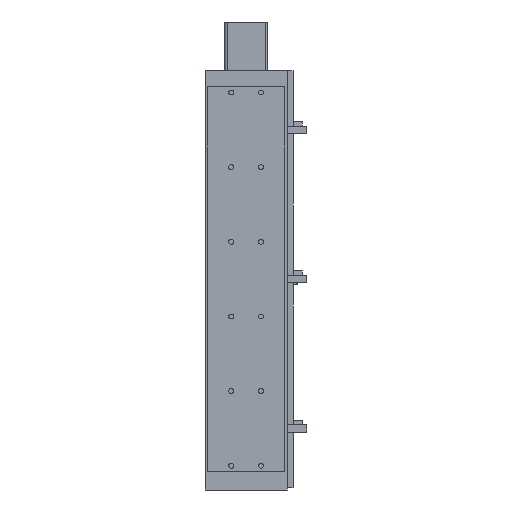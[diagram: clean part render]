
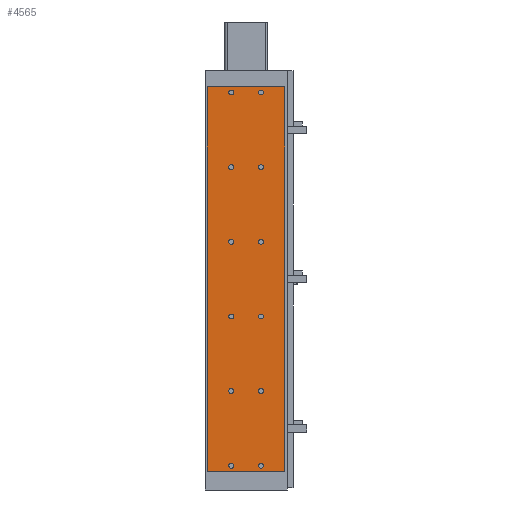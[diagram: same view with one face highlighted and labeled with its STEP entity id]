
A CAD part, front view. The second image highlights one B-rep face of the part: STEP entity #4565.
In plain terms, the highlighted planar face has unit normal (0, -1, 0).
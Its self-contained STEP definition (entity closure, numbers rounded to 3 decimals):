
#136=CARTESIAN_POINT('',(16.75,0.,532.5));
#137=VERTEX_POINT('',#136);
#138=CARTESIAN_POINT('',(20.,0.0,532.5));
#139=DIRECTION('',(0.0,1.0,0.0));
#140=DIRECTION('',(1.0,0.0,0.0));
#141=AXIS2_PLACEMENT_3D('',#138,#139,#140);
#142=CIRCLE('',#141,3.25);
#143=EDGE_CURVE('',#137,#137,#142,.T.);
#182=CARTESIAN_POINT('',(-23.25,0.,532.5));
#183=VERTEX_POINT('',#182);
#184=CARTESIAN_POINT('',(-20.,0.0,532.5));
#185=DIRECTION('',(0.0,1.0,0.0));
#186=DIRECTION('',(1.0,0.0,0.0));
#187=AXIS2_PLACEMENT_3D('',#184,#185,#186);
#188=CIRCLE('',#187,3.25);
#189=EDGE_CURVE('',#183,#183,#188,.T.);
#290=CARTESIAN_POINT('',(16.75,0.,432.5));
#291=VERTEX_POINT('',#290);
#292=CARTESIAN_POINT('',(20.,0.0,432.5));
#293=DIRECTION('',(0.0,1.0,0.0));
#294=DIRECTION('',(1.0,0.0,0.0));
#295=AXIS2_PLACEMENT_3D('',#292,#293,#294);
#296=CIRCLE('',#295,3.25);
#297=EDGE_CURVE('',#291,#291,#296,.T.);
#336=CARTESIAN_POINT('',(-23.25,0.,432.5));
#337=VERTEX_POINT('',#336);
#338=CARTESIAN_POINT('',(-20.,0.0,432.5));
#339=DIRECTION('',(0.0,1.0,0.0));
#340=DIRECTION('',(1.0,0.0,0.0));
#341=AXIS2_PLACEMENT_3D('',#338,#339,#340);
#342=CIRCLE('',#341,3.25);
#343=EDGE_CURVE('',#337,#337,#342,.T.);
#444=CARTESIAN_POINT('',(16.75,0.,132.5));
#445=VERTEX_POINT('',#444);
#446=CARTESIAN_POINT('',(20.,0.0,132.5));
#447=DIRECTION('',(0.0,1.0,0.0));
#448=DIRECTION('',(1.0,0.0,0.0));
#449=AXIS2_PLACEMENT_3D('',#446,#447,#448);
#450=CIRCLE('',#449,3.25);
#451=EDGE_CURVE('',#445,#445,#450,.T.);
#490=CARTESIAN_POINT('',(-23.25,0.,132.5));
#491=VERTEX_POINT('',#490);
#492=CARTESIAN_POINT('',(-20.,0.0,132.5));
#493=DIRECTION('',(0.0,1.0,0.0));
#494=DIRECTION('',(1.0,0.0,0.0));
#495=AXIS2_PLACEMENT_3D('',#492,#493,#494);
#496=CIRCLE('',#495,3.25);
#497=EDGE_CURVE('',#491,#491,#496,.T.);
#598=CARTESIAN_POINT('',(16.75,0.,32.5));
#599=VERTEX_POINT('',#598);
#600=CARTESIAN_POINT('',(20.,0.0,32.5));
#601=DIRECTION('',(0.0,1.0,0.0));
#602=DIRECTION('',(1.0,0.0,0.0));
#603=AXIS2_PLACEMENT_3D('',#600,#601,#602);
#604=CIRCLE('',#603,3.25);
#605=EDGE_CURVE('',#599,#599,#604,.T.);
#644=CARTESIAN_POINT('',(-23.25,0.,32.5));
#645=VERTEX_POINT('',#644);
#646=CARTESIAN_POINT('',(-20.,0.0,32.5));
#647=DIRECTION('',(0.0,1.0,0.0));
#648=DIRECTION('',(1.0,0.0,0.0));
#649=AXIS2_PLACEMENT_3D('',#646,#647,#648);
#650=CIRCLE('',#649,3.25);
#651=EDGE_CURVE('',#645,#645,#650,.T.);
#752=CARTESIAN_POINT('',(16.75,0.,332.5));
#753=VERTEX_POINT('',#752);
#754=CARTESIAN_POINT('',(20.,0.0,332.5));
#755=DIRECTION('',(0.0,1.0,0.0));
#756=DIRECTION('',(1.0,0.0,0.0));
#757=AXIS2_PLACEMENT_3D('',#754,#755,#756);
#758=CIRCLE('',#757,3.25);
#759=EDGE_CURVE('',#753,#753,#758,.T.);
#829=CARTESIAN_POINT('',(-23.25,0.,332.5));
#830=VERTEX_POINT('',#829);
#831=CARTESIAN_POINT('',(-20.,0.0,332.5));
#832=DIRECTION('',(0.0,1.0,0.0));
#833=DIRECTION('',(1.0,0.0,0.0));
#834=AXIS2_PLACEMENT_3D('',#831,#832,#833);
#835=CIRCLE('',#834,3.25);
#836=EDGE_CURVE('',#830,#830,#835,.T.);
#906=CARTESIAN_POINT('',(16.75,0.,232.5));
#907=VERTEX_POINT('',#906);
#908=CARTESIAN_POINT('',(20.,0.0,232.5));
#909=DIRECTION('',(0.0,1.0,0.0));
#910=DIRECTION('',(1.0,0.0,0.0));
#911=AXIS2_PLACEMENT_3D('',#908,#909,#910);
#912=CIRCLE('',#911,3.25);
#913=EDGE_CURVE('',#907,#907,#912,.T.);
#983=CARTESIAN_POINT('',(-23.25,0.,232.5));
#984=VERTEX_POINT('',#983);
#985=CARTESIAN_POINT('',(-20.,0.0,232.5));
#986=DIRECTION('',(0.0,1.0,0.0));
#987=DIRECTION('',(1.0,0.0,0.0));
#988=AXIS2_PLACEMENT_3D('',#985,#986,#987);
#989=CIRCLE('',#988,3.25);
#990=EDGE_CURVE('',#984,#984,#989,.T.);
#4450=CARTESIAN_POINT('',(52.,0.,25.));
#4451=VERTEX_POINT('',#4450);
#4458=CARTESIAN_POINT('',(-52.0,0.,25.));
#4459=VERTEX_POINT('',#4458);
#4460=CARTESIAN_POINT('',(-52.0,0.,25.));
#4461=DIRECTION('',(1.0,0.0,0.0));
#4462=VECTOR('',#4461,104.0);
#4463=LINE('',#4460,#4462);
#4464=EDGE_CURVE('',#4459,#4451,#4463,.T.);
#4481=CARTESIAN_POINT('',(-52.,0.,540.0));
#4482=VERTEX_POINT('',#4481);
#4483=CARTESIAN_POINT('',(-52.0,0.,25.));
#4484=DIRECTION('',(0.0,0.0,1.0));
#4485=VECTOR('',#4484,515.0);
#4486=LINE('',#4483,#4485);
#4487=EDGE_CURVE('',#4459,#4482,#4486,.T.);
#4506=CARTESIAN_POINT('',(52.0,0.,0.0));
#4507=DIRECTION('',(0.0,-1.0,0.0));
#4508=DIRECTION('',(0.0,0.0,-1.0));
#4509=AXIS2_PLACEMENT_3D('',#4506,#4507,#4508);
#4510=PLANE('',#4509);
#4511=ORIENTED_EDGE('',*,*,#4464,.T.);
#4512=CARTESIAN_POINT('',(52.,0.,540.0));
#4513=VERTEX_POINT('',#4512);
#4514=CARTESIAN_POINT('',(52.,0.,25.));
#4515=DIRECTION('',(0.0,0.0,1.0));
#4516=VECTOR('',#4515,515.0);
#4517=LINE('',#4514,#4516);
#4518=EDGE_CURVE('',#4451,#4513,#4517,.T.);
#4519=ORIENTED_EDGE('',*,*,#4518,.T.);
#4520=CARTESIAN_POINT('',(52.,0.,540.0));
#4521=DIRECTION('',(-1.0,0.0,0.0));
#4522=VECTOR('',#4521,104.);
#4523=LINE('',#4520,#4522);
#4524=EDGE_CURVE('',#4513,#4482,#4523,.T.);
#4525=ORIENTED_EDGE('',*,*,#4524,.T.);
#4526=ORIENTED_EDGE('',*,*,#4487,.F.);
#4527=EDGE_LOOP('',(#4511,#4519,#4525,#4526));
#4528=FACE_OUTER_BOUND('',#4527,.T.);
#4529=ORIENTED_EDGE('',*,*,#143,.T.);
#4530=EDGE_LOOP('',(#4529));
#4531=FACE_BOUND('',#4530,.T.);
#4532=ORIENTED_EDGE('',*,*,#189,.T.);
#4533=EDGE_LOOP('',(#4532));
#4534=FACE_BOUND('',#4533,.T.);
#4535=ORIENTED_EDGE('',*,*,#297,.T.);
#4536=EDGE_LOOP('',(#4535));
#4537=FACE_BOUND('',#4536,.T.);
#4538=ORIENTED_EDGE('',*,*,#343,.T.);
#4539=EDGE_LOOP('',(#4538));
#4540=FACE_BOUND('',#4539,.T.);
#4541=ORIENTED_EDGE('',*,*,#451,.T.);
#4542=EDGE_LOOP('',(#4541));
#4543=FACE_BOUND('',#4542,.T.);
#4544=ORIENTED_EDGE('',*,*,#497,.T.);
#4545=EDGE_LOOP('',(#4544));
#4546=FACE_BOUND('',#4545,.T.);
#4547=ORIENTED_EDGE('',*,*,#605,.T.);
#4548=EDGE_LOOP('',(#4547));
#4549=FACE_BOUND('',#4548,.T.);
#4550=ORIENTED_EDGE('',*,*,#651,.T.);
#4551=EDGE_LOOP('',(#4550));
#4552=FACE_BOUND('',#4551,.T.);
#4553=ORIENTED_EDGE('',*,*,#759,.T.);
#4554=EDGE_LOOP('',(#4553));
#4555=FACE_BOUND('',#4554,.T.);
#4556=ORIENTED_EDGE('',*,*,#836,.T.);
#4557=EDGE_LOOP('',(#4556));
#4558=FACE_BOUND('',#4557,.T.);
#4559=ORIENTED_EDGE('',*,*,#913,.T.);
#4560=EDGE_LOOP('',(#4559));
#4561=FACE_BOUND('',#4560,.T.);
#4562=ORIENTED_EDGE('',*,*,#990,.T.);
#4563=EDGE_LOOP('',(#4562));
#4564=FACE_BOUND('',#4563,.T.);
#4565=ADVANCED_FACE('',(#4528,#4531,#4534,#4537,#4540,#4543,#4546,#4549,#4552,#4555,#4558,#4561,#4564),#4510,.T.);
